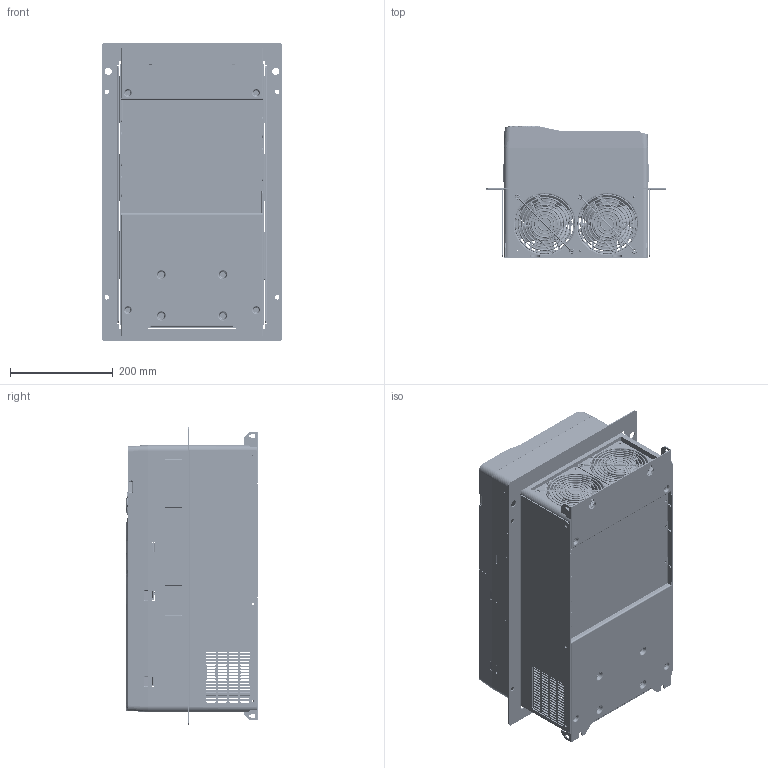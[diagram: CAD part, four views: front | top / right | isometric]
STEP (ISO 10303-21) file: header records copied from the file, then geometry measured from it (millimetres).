
FILE_DESCRIPTION((''),'2;1');
FILE_NAME('ST600-075G3_ASM','2019-07-04T',('Administrator'),(''),'PRO/ENGINEER BY PARAMETRIC TECHNOLOGY CORPORATION, 2010100','PRO/ENGINEER BY PARAMETRIC TECHNOLOGY CORPORATION, 2010100','');
FILE_SCHEMA(('CONFIG_CONTROL_DESIGN'));
Products named in the file (82): 80710015; 80740140; 80880255; 70610346; 70610345; 80310386; S-M4-ZC; 80310386_ASM; 80780047; 40840244_ASM; 77553475; SO-M4-14-ZC; 77553475_ASM; 77553480; 77553480_ASM; 77553485; Z-M4-ZC; 77553485_ASM; 77553486_ASM; 77553479_ASM; 77553481; BSO-M4-12-ZC; 77553481_ASM; 77553489; SO-M4-8-ZC; Z-M5-ZC; 77553489_ASM; 77553487; 77553484; S-M5-ZC; 77553484_ASM; 77553478; 77553478_ASM; 77553473; 77553473_ASM; 77553482_ASM; 77553488; NZ-M6-ZC; 77553488_ASM; 40850517_ASM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
Assembly tree (120 placements, depth 6):
  ST600-075G3_ASM
    80710015
    80740140
    80880255
    70610346
    70610345
    80310386_ASM
      80310386
      S-M4-ZC  x6
    80780047
    40840244_ASM
    40850517_ASM
      77553475_ASM
        77553475
        SO-M4-14-ZC
      77553480_ASM
        77553480
        SO-M4-14-ZC
      77553485_ASM
        77553485
        Z-M4-ZC  x2
      77553486_ASM
      77553479_ASM
      77553481_ASM
        77553481
        BSO-M4-12-ZC
      77553489_ASM
        77553489
        SO-M4-8-ZC
        Z-M5-ZC
      77553487
      77553484_ASM
        77553484
        BSO-M4-12-ZC
        S-M5-ZC
      77553478_ASM
        77553478
        BSO-M4-12-ZC
        Z-M5-ZC
      77553473_ASM
        77553473
        BSO-M4-12-ZC
      77553482_ASM
      77553488_ASM
        77553488
        NZ-M6-ZC  x2
    ST600-075G3-ES_ASM
      2-21-12-123-4C-230HBT  x2
      FENGSHANWANG_S  x2
      01
      39003-00040_RICHCO  x2
      80740019  x6
      80383655
      KEY-LCD01-ZY-600_ASM
        80740163
        40810091_ASM
          80740162
          80880456
          80880456SY
        80740164
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Bounding box: 352 x 257.12 x 580 mm (x, y, z)
Volume: 4748633.2 mm3; surface area: 3405473.1 mm2
Topology: 109 solids, 109 shells, 21662 faces, 59180 edges, 38303 vertices
Faces by surface type: plane 11570, cylinder 7548, torus 773, cone 758, bspline 596, extrusion 332, sphere 53, revolution 32
Entity records: 648958 total; most frequent: CARTESIAN_POINT 155054, ORIENTED_EDGE 103626, DIRECTION 99601, EDGE_CURVE 51813, VECTOR 34491, LINE 34173, VERTEX_POINT 33585, AXIS2_PLACEMENT_3D 32547
